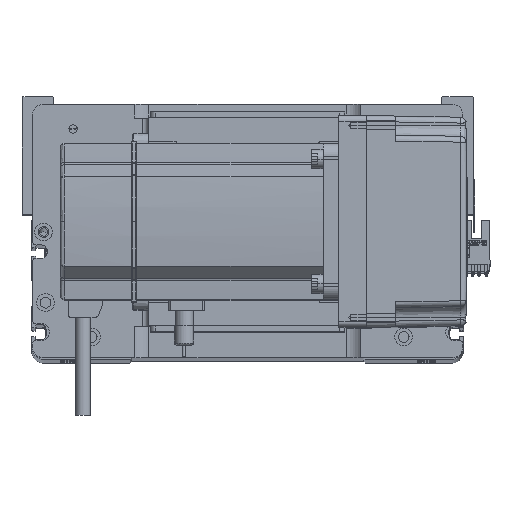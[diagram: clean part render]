
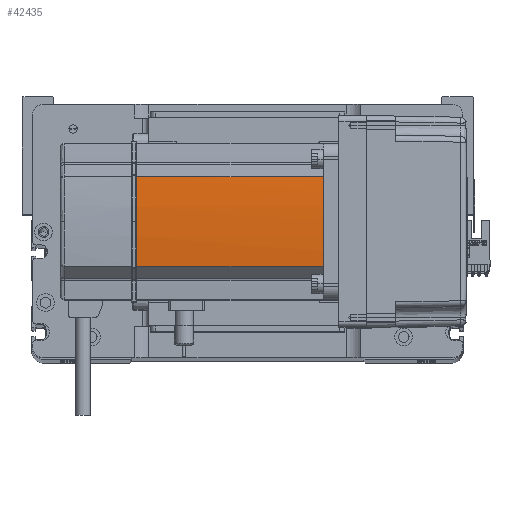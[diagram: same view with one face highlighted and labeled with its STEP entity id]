
A CAD part, top view. The second image highlights one B-rep face of the part: STEP entity #42435.
In plain terms, the highlighted cylindrical face has radius 270 mm (diameter 540 mm), a partial arc.
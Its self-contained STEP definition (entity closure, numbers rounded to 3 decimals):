
#527 = CIRCLE ( 'NONE', #32139, 270. ) ;
#695 = CARTESIAN_POINT ( 'NONE',  ( 230., 0., 134. ) ) ;
#1149 = CARTESIAN_POINT ( 'NONE',  ( -39.042, -22.724, 39. ) ) ;
#2055 = CARTESIAN_POINT ( 'NONE',  ( 230., 0., 39. ) ) ;
#2760 = DIRECTION ( 'NONE',  ( 1., 0., 0. ) ) ;
#4193 = VECTOR ( 'NONE', #24599, 1000. ) ;
#4283 = ORIENTED_EDGE ( 'NONE', *, *, #44442, .T. ) ;
#4970 = CARTESIAN_POINT ( 'NONE',  ( -40., 0., 134. ) ) ;
#5165 = CYLINDRICAL_SURFACE ( 'NONE', #40853, 270. ) ;
#6888 = CARTESIAN_POINT ( 'NONE',  ( 230., 0., 0. ) ) ;
#7120 = ORIENTED_EDGE ( 'NONE', *, *, #10116, .T. ) ;
#7994 = VERTEX_POINT ( 'NONE', #13451 ) ;
#8201 = LINE ( 'NONE', #36327, #16369 ) ;
#10116 = EDGE_CURVE ( 'NONE', #46302, #12832, #31230, .T. ) ;
#10717 = DIRECTION ( 'NONE',  ( 0., 0., -1. ) ) ;
#10938 = DIRECTION ( 'NONE',  ( 0., 0., 1. ) ) ;
#12832 = VERTEX_POINT ( 'NONE', #32504 ) ;
#13372 = EDGE_CURVE ( 'NONE', #20410, #29277, #8201, .T. ) ;
#13451 = CARTESIAN_POINT ( 'NONE',  ( -39.042, 22.724, 39. ) ) ;
#13984 = ORIENTED_EDGE ( 'NONE', *, *, #41284, .F. ) ;
#15486 = ORIENTED_EDGE ( 'NONE', *, *, #22120, .T. ) ;
#15847 = FACE_OUTER_BOUND ( 'NONE', #22302, .T. ) ;
#16369 = VECTOR ( 'NONE', #48898, 1000. ) ;
#17847 = CIRCLE ( 'NONE', #32374, 270. ) ;
#20410 = VERTEX_POINT ( 'NONE', #1149 ) ;
#21730 = CARTESIAN_POINT ( 'NONE',  ( 230., 0., 134. ) ) ;
#22120 = EDGE_CURVE ( 'NONE', #12832, #7994, #23682, .T. ) ;
#22302 = EDGE_LOOP ( 'NONE', ( #4283, #7120, #15486, #13984, #32723 ) ) ;
#23682 = LINE ( 'NONE', #51768, #4193 ) ;
#24599 = DIRECTION ( 'NONE',  ( 0., 0., -1. ) ) ;
#25794 = DIRECTION ( 'NONE',  ( 1., 0., 0. ) ) ;
#28552 = DIRECTION ( 'NONE',  ( 1., 0., 0. ) ) ;
#29277 = VERTEX_POINT ( 'NONE', #50621 ) ;
#31230 = CIRCLE ( 'NONE', #36706, 270. ) ;
#32139 = AXIS2_PLACEMENT_3D ( 'NONE', #695, #48720, #28552 ) ;
#32374 = AXIS2_PLACEMENT_3D ( 'NONE', #2055, #10717, #2760 ) ;
#32504 = CARTESIAN_POINT ( 'NONE',  ( -39.042, 22.724, 134. ) ) ;
#32723 = ORIENTED_EDGE ( 'NONE', *, *, #13372, .T. ) ;
#36327 = CARTESIAN_POINT ( 'NONE',  ( -39.042, -22.724, 0. ) ) ;
#36706 = AXIS2_PLACEMENT_3D ( 'NONE', #21730, #41792, #25794 ) ;
#39102 = DIRECTION ( 'NONE',  ( 1., 0., 0. ) ) ;
#40853 = AXIS2_PLACEMENT_3D ( 'NONE', #6888, #10938, #39102 ) ;
#41284 = EDGE_CURVE ( 'NONE', #20410, #7994, #17847, .T. ) ;
#41792 = DIRECTION ( 'NONE',  ( 0., 0., -1. ) ) ;
#42435 = ADVANCED_FACE ( 'NONE', ( #15847 ), #5165, .T. ) ;
#44442 = EDGE_CURVE ( 'NONE', #29277, #46302, #527, .T. ) ;
#46302 = VERTEX_POINT ( 'NONE', #4970 ) ;
#48720 = DIRECTION ( 'NONE',  ( 0., 0., -1. ) ) ;
#48898 = DIRECTION ( 'NONE',  ( 0., 0., 1. ) ) ;
#50621 = CARTESIAN_POINT ( 'NONE',  ( -39.042, -22.724, 134. ) ) ;
#51768 = CARTESIAN_POINT ( 'NONE',  ( -39.042, 22.724, 0. ) ) ;
